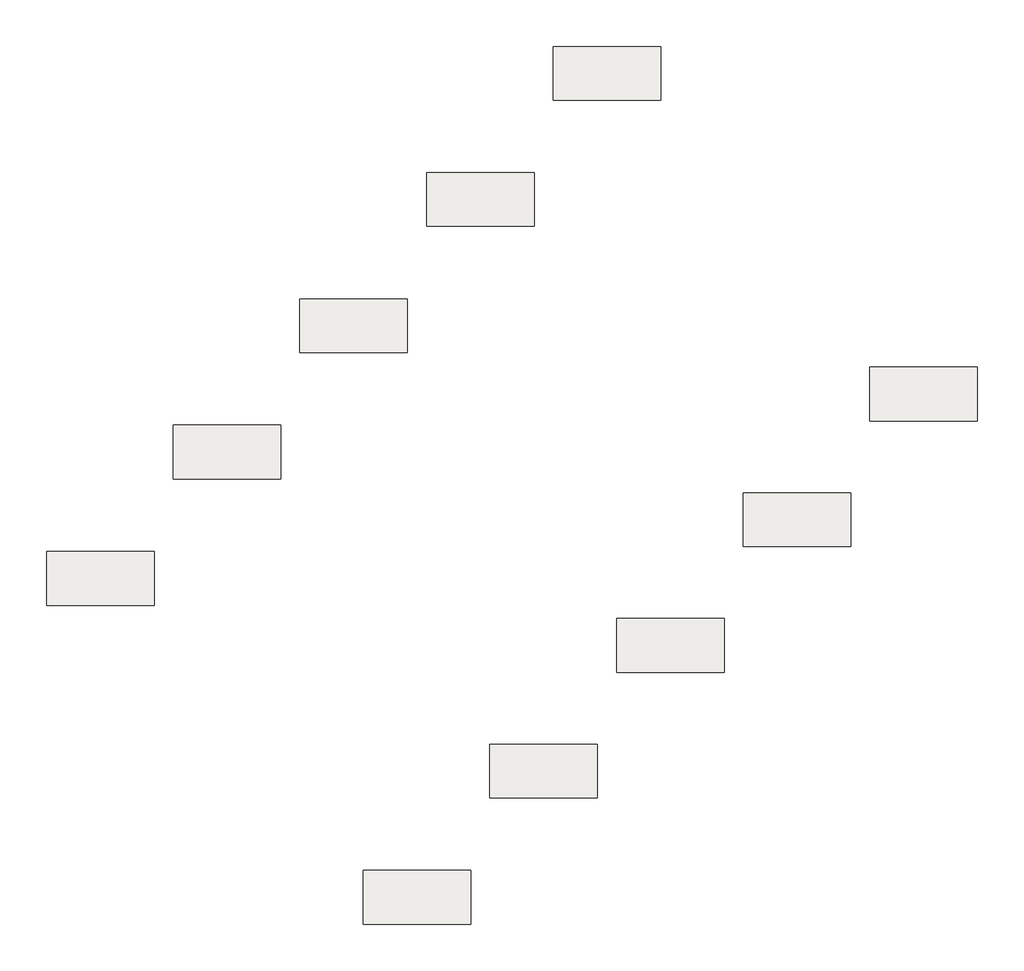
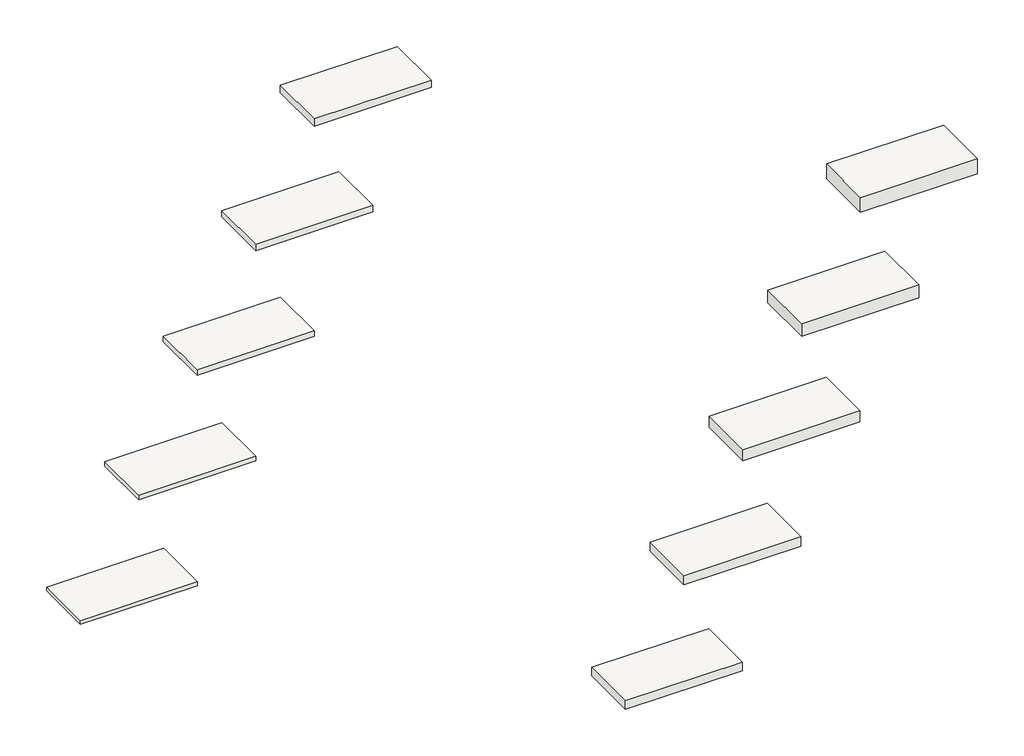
# One storey: 10 roofs.
"""IFC4 building model written with IfcOpenShell, lengths in millimetres."""

from ifc_helpers import new_model, si_unit, frame, origin, place, context, project, spatial, polyline, outline, extrude, element, save

model = new_model("IFC4")

# Units and contexts
model_context = context("Model", 3, world=origin())
ifc_project = project(units=[si_unit("LENGTHUNIT", "METRE", prefix="MILLI")], contexts=[model_context])

# Site, building, storey
site = spatial("IfcSite", under=ifc_project)
building = spatial("IfcBuilding", under=site)
storey = spatial("IfcBuildingStorey", under=building, Name="lengte 1200", Elevation=1200.0)

# Roofs
placement = place(None, origin())
element("IfcRoof", 1, ObjectType="NLRS_27_RO_Rock4all_100x600x1200mm", at=placement, inside=storey, context=model_context, shape_type="SweptSolid", body=[
    extrude(outline(polyline([(5896.3838542, 322.4422537), (7096.3838542, 322.4422537), (7096.3838542, -277.5577463), (5896.3838542, -277.5577463), (5896.3838542, 322.4422537)])), frame((0.0, 0.0, 1200.0), z_axis=(0.0, 0.0, 1.0), x_axis=(1.0, 0.0, 0.0)), (0.0, 0.0, 1.0), 100.0),
])
element("IfcRoof", 2, ObjectType="NLRS_27_RO_Rock4all_120x600x1200mm", at=placement, inside=storey, context=model_context, shape_type="SweptSolid", body=[
    extrude(outline(polyline([(7310.5974166, 1726.655816), (8510.5974166, 1726.655816), (8510.5974166, 1126.655816), (7310.5974166, 1126.655816), (7310.5974166, 1726.655816)])), frame((0.0, 0.0, 1200.0), z_axis=(0.0, 0.0, 1.0), x_axis=(1.0, 0.0, 0.0)), (0.0, 0.0, 1.0), 120.0),
])
element("IfcRoof", 3, ObjectType="NLRS_27_RO_Rock4all_140x600x1200mm", at=placement, inside=storey, context=model_context, shape_type="SweptSolid", body=[
    extrude(outline(polyline([(8724.810979, 3130.8693784), (9924.810979, 3130.8693784), (9924.810979, 2530.8693784), (8724.810979, 2530.8693784), (8724.810979, 3130.8693784)])), frame((0.0, 0.0, 1200.0), z_axis=(0.0, 0.0, 1.0), x_axis=(1.0, 0.0, 0.0)), (0.0, 0.0, 1.0), 140.0),
])
element("IfcRoof", 4, ObjectType="NLRS_27_RO_Rock4all_160x600x1200mm", at=placement, inside=storey, context=model_context, shape_type="SweptSolid", body=[
    extrude(outline(polyline([(10139.0245414, 4535.0829408), (11339.0245414, 4535.0829408), (11339.0245414, 3935.0829408), (10139.0245414, 3935.0829408), (10139.0245414, 4535.0829408)])), frame((0.0, 0.0, 1200.0), z_axis=(0.0, 0.0, 1.0), x_axis=(1.0, 0.0, 0.0)), (0.0, 0.0, 1.0), 160.0),
])
element("IfcRoof", 5, ObjectType="NLRS_27_RO_Rock4all_40x600x1200mm", at=placement, inside=storey, context=model_context, shape_type="SweptSolid", body=[
    extrude(outline(polyline([(946.6363859, 2473.7625972), (2146.6363859, 2473.7625972), (2146.6363859, 1873.7625972), (946.6363859, 1873.7625972), (946.6363859, 2473.7625972)])), frame((0.0, 0.0, 1200.0), z_axis=(0.0, 0.0, 1.0), x_axis=(1.0, 0.0, 0.0)), (0.0, 0.0, 1.0), 40.0),
])
element("IfcRoof", 6, ObjectType="NLRS_27_RO_Rock4all_50x600x1200mm", at=placement, inside=storey, context=model_context, shape_type="SweptSolid", body=[
    extrude(outline(polyline([(2360.8499483, 3885.4761596), (3560.8499483, 3885.4761596), (3560.8499483, 3285.4761596), (2360.8499483, 3285.4761596), (2360.8499483, 3885.4761596)])), frame((0.0, 0.0, 1200.0), z_axis=(0.0, 0.0, 1.0), x_axis=(1.0, 0.0, 0.0)), (0.0, 0.0, 1.0), 50.0),
])
element("IfcRoof", 7, ObjectType="NLRS_27_RO_Rock4all_60x600x1200mm", at=placement, inside=storey, context=model_context, shape_type="SweptSolid", body=[
    extrude(outline(polyline([(3775.0635107, 5297.189722), (4975.0635107, 5297.189722), (4975.0635107, 4697.189722), (3775.0635107, 4697.189722), (3775.0635107, 5297.189722)])), frame((0.0, 0.0, 1200.0), z_axis=(0.0, 0.0, 1.0), x_axis=(1.0, 0.0, 0.0)), (0.0, 0.0, 1.0), 60.0),
])
element("IfcRoof", 8, ObjectType="NLRS_27_RO_Rock4all_70x600x1200mm", at=placement, inside=storey, context=model_context, shape_type="SweptSolid", body=[
    extrude(outline(polyline([(5189.2770731, 6708.9032843), (6389.2770731, 6708.9032843), (6389.2770731, 6108.9032843), (5189.2770731, 6108.9032843), (5189.2770731, 6708.9032843)])), frame((0.0, 0.0, 1200.0), z_axis=(0.0, 0.0, 1.0), x_axis=(1.0, 0.0, 0.0)), (0.0, 0.0, 1.0), 70.0),
])
element("IfcRoof", 9, ObjectType="NLRS_27_RO_Rock4all_80x600x1200mm", at=placement, inside=storey, context=model_context, shape_type="SweptSolid", body=[
    extrude(outline(polyline([(6603.4906354, 8115.6168467), (7803.4906354, 8115.6168467), (7803.4906354, 7515.6168467), (6603.4906354, 7515.6168467), (6603.4906354, 8115.6168467)])), frame((0.0, 0.0, 1200.0), z_axis=(0.0, 0.0, 1.0), x_axis=(1.0, 0.0, 0.0)), (0.0, 0.0, 1.0), 80.0),
])
element("IfcRoof", 10, ObjectType="NLRS_27_RO_Rock4all_90x600x1200mm", at=placement, inside=storey, context=model_context, shape_type="SweptSolid", body=[
    extrude(outline(polyline([(4482.1702919, -1086.7713087), (5682.1702919, -1086.7713087), (5682.1702919, -1686.7713087), (4482.1702919, -1686.7713087), (4482.1702919, -1086.7713087)])), frame((0.0, 0.0, 1200.0), z_axis=(0.0, 0.0, 1.0), x_axis=(1.0, 0.0, 0.0)), (0.0, 0.0, 1.0), 90.0),
])

save(model, "model.ifc")
